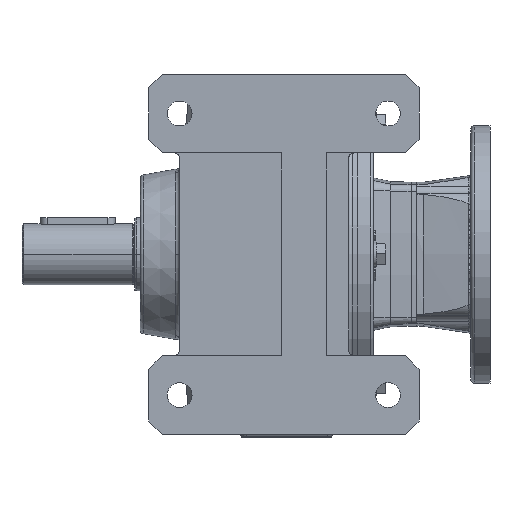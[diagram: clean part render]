
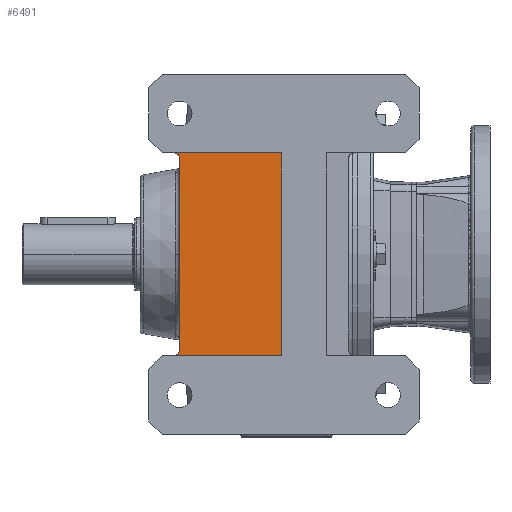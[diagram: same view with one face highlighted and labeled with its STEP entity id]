
A CAD part, front view. The second image highlights one B-rep face of the part: STEP entity #6491.
In plain terms, the highlighted planar face has unit normal (0, -1, 0).
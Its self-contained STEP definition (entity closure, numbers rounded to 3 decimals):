
#6491 = ADVANCED_FACE ( 'NONE', ( #87963 ), #7951, .F. ) ;
#7951 = PLANE ( 'NONE',  #87968 ) ;
#7953 = CARTESIAN_POINT ( 'NONE',  ( 212.5, -111., -90. ) ) ;
#7954 = DIRECTION ( 'NONE',  ( 0., 1., 0. ) ) ;
#7956 = DIRECTION ( 'NONE',  ( -1., 0., 0. ) ) ;
#24652 = EDGE_LOOP ( 'NONE', ( #24752, #24754, #24753, #24755, #24756, #24757 ) ) ;
#24752 = ORIENTED_EDGE ( 'NONE', *, *, #34641, .F. ) ;
#24753 = ORIENTED_EDGE ( 'NONE', *, *, #34643, .T. ) ;
#24754 = ORIENTED_EDGE ( 'NONE', *, *, #34639, .T. ) ;
#24755 = ORIENTED_EDGE ( 'NONE', *, *, #34646, .T. ) ;
#24756 = ORIENTED_EDGE ( 'NONE', *, *, #34648, .T. ) ;
#24757 = ORIENTED_EDGE ( 'NONE', *, *, #34650, .F. ) ;
#25282 = VERTEX_POINT ( 'NONE', #35661 ) ;
#25283 = VERTEX_POINT ( 'NONE', #35663 ) ;
#25284 = VERTEX_POINT ( 'NONE', #35665 ) ;
#25285 = VERTEX_POINT ( 'NONE', #35667 ) ;
#25286 = VERTEX_POINT ( 'NONE', #35668 ) ;
#25287 = VERTEX_POINT ( 'NONE', #35670 ) ;
#34639 = EDGE_CURVE ( 'NONE', #25282, #25284, #72824, .T. ) ;
#34641 = EDGE_CURVE ( 'NONE', #25282, #25283, #72827, .T. ) ;
#34643 = EDGE_CURVE ( 'NONE', #25284, #25285, #46092, .T. ) ;
#34646 = EDGE_CURVE ( 'NONE', #25285, #25286, #72833, .T. ) ;
#34648 = EDGE_CURVE ( 'NONE', #25286, #25287, #46093, .T. ) ;
#34650 = EDGE_CURVE ( 'NONE', #25283, #25287, #72839, .T. ) ;
#35661 = CARTESIAN_POINT ( 'NONE',  ( 90., -111., 90. ) ) ;
#35663 = CARTESIAN_POINT ( 'NONE',  ( 90., -111., -90. ) ) ;
#35665 = CARTESIAN_POINT ( 'NONE',  ( -5., -111., 90. ) ) ;
#35667 = CARTESIAN_POINT ( 'NONE',  ( 0., -111., 85. ) ) ;
#35668 = CARTESIAN_POINT ( 'NONE',  ( 0., -111., -85. ) ) ;
#35670 = CARTESIAN_POINT ( 'NONE',  ( -5., -111., -90. ) ) ;
#46092 = CIRCLE ( 'NONE', #55727, 5. ) ;
#46093 = CIRCLE ( 'NONE', #55716, 5. ) ;
#55716 = AXIS2_PLACEMENT_3D ( 'NONE', #72832, #72836, #72837 ) ;
#55726 = VECTOR ( 'NONE', #72826, 1000. ) ;
#55727 = AXIS2_PLACEMENT_3D ( 'NONE', #72820, #72830, #72831 ) ;
#55728 = VECTOR ( 'NONE', #72829, 1000. ) ;
#55730 = VECTOR ( 'NONE', #72835, 1000. ) ;
#55731 = VECTOR ( 'NONE', #72841, 1000. ) ;
#72820 = CARTESIAN_POINT ( 'NONE',  ( -5., -111., 85. ) ) ;
#72824 = LINE ( 'NONE', #72825, #55726 ) ;
#72825 = CARTESIAN_POINT ( 'NONE',  ( 212.5, -111., 90. ) ) ;
#72826 = DIRECTION ( 'NONE',  ( -1., 0., 0. ) ) ;
#72827 = LINE ( 'NONE', #72828, #55728 ) ;
#72828 = CARTESIAN_POINT ( 'NONE',  ( 90., -111., 0. ) ) ;
#72829 = DIRECTION ( 'NONE',  ( 0., 0., -1. ) ) ;
#72830 = DIRECTION ( 'NONE',  ( 0., 1., 0. ) ) ;
#72831 = DIRECTION ( 'NONE',  ( -1., 0., 0. ) ) ;
#72832 = CARTESIAN_POINT ( 'NONE',  ( -5., -111., -85. ) ) ;
#72833 = LINE ( 'NONE', #72834, #55730 ) ;
#72834 = CARTESIAN_POINT ( 'NONE',  ( 0., -111., -90. ) ) ;
#72835 = DIRECTION ( 'NONE',  ( 0., 0., -1. ) ) ;
#72836 = DIRECTION ( 'NONE',  ( 0., 1., 0. ) ) ;
#72837 = DIRECTION ( 'NONE',  ( -1., 0., 0. ) ) ;
#72839 = LINE ( 'NONE', #72840, #55731 ) ;
#72840 = CARTESIAN_POINT ( 'NONE',  ( 212.5, -111., -90. ) ) ;
#72841 = DIRECTION ( 'NONE',  ( -1., 0., 0. ) ) ;
#87963 = FACE_OUTER_BOUND ( 'NONE', #24652, .T. ) ;
#87968 = AXIS2_PLACEMENT_3D ( 'NONE', #7953, #7954, #7956 ) ;
